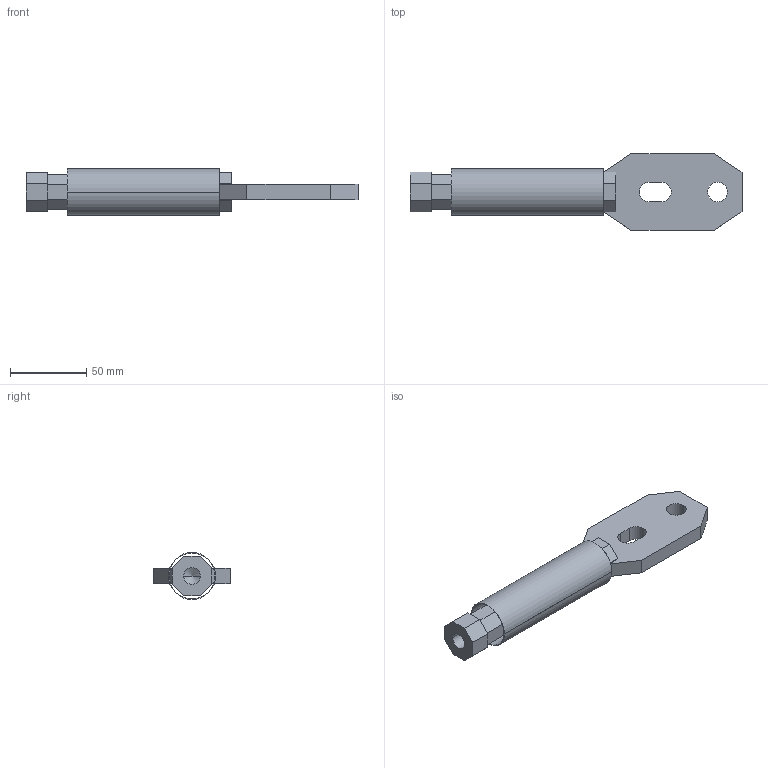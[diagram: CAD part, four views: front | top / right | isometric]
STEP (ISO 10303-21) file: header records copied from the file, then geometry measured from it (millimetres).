
FILE_DESCRIPTION((''),'2;1');
FILE_NAME('U8_LONG_REAR_CONDUCTOR_ASSY_ASM','2018-06-04T',('HHI'),(''),'PRO/ENGINEER BY PARAMETRIC TECHNOLOGY CORPORATION, 2012453','PRO/ENGINEER BY PARAMETRIC TECHNOLOGY CORPORATION, 2012453','');
FILE_SCHEMA(('CONFIG_CONTROL_DESIGN'));
Length unit declared in the file: millimetre
Products named in the file (4): U8_LONG_REAR_CONDUCTOR_AF0; U8_REAR_BUSBAR; U8_RCT_INSULATION_TUBE; U8_LONG_REAR_CONDUCTOR_ASSY_ASM
Assembly tree (3 placements, depth 2):
  U8_LONG_REAR_CONDUCTOR_ASSY_ASM
    U8_LONG_REAR_CONDUCTOR_AF0
    U8_REAR_BUSBAR
    U8_RCT_INSULATION_TUBE
Bounding box: 218 x 50 x 30.8 mm (x, y, z)
Volume: 108994.9 mm3; surface area: 44070.6 mm2
Topology: 3 solids, 3 shells, 94 faces, 244 edges, 161 vertices
Faces by surface type: plane 82, cylinder 10, cone 2
Entity records: 2938 total; most frequent: CARTESIAN_POINT 504, ORIENTED_EDGE 484, DIRECTION 464, EDGE_CURVE 242, VECTOR 222, LINE 222, VERTEX_POINT 161, AXIS2_PLACEMENT_3D 121
